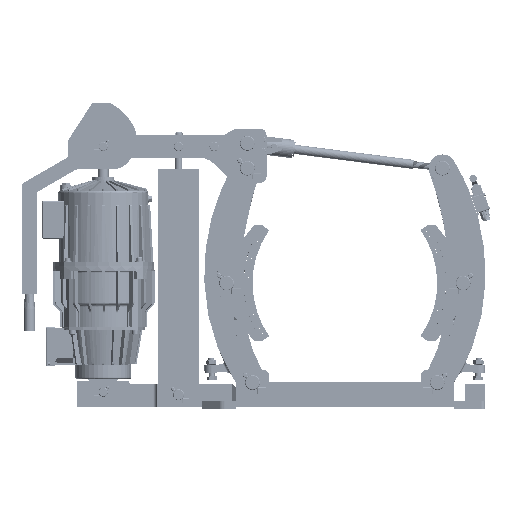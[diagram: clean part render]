
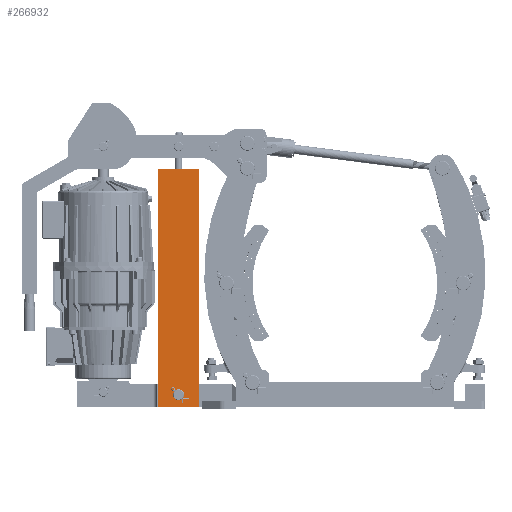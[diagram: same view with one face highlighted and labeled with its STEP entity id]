
A CAD part, left-side view. The second image highlights one B-rep face of the part: STEP entity #266932.
In plain terms, the highlighted planar face has unit normal (-1, 0, 0).
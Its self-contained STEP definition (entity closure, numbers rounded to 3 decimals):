
#266763=DIRECTION('',(0.,0.,-1.));
#266764=VECTOR('',#266763,642.);
#266765=CARTESIAN_POINT('',(-140.,774.997,648.));
#266766=LINE('',#266765,#266764);
#266770=DIRECTION('',(0.,1.,0.));
#266771=VECTOR('',#266770,110.);
#266772=CARTESIAN_POINT('',(-140.,774.997,6.));
#266773=LINE('',#266772,#266771);
#266777=DIRECTION('',(0.,0.,1.));
#266778=VECTOR('',#266777,642.);
#266779=CARTESIAN_POINT('',(-140.,884.997,6.));
#266780=LINE('',#266779,#266778);
#266784=DIRECTION('',(0.,-1.,0.));
#266785=VECTOR('',#266784,110.);
#266786=CARTESIAN_POINT('',(-140.,884.997,648.));
#266787=LINE('',#266786,#266785);
#266791=CARTESIAN_POINT('',(-140.,830.,23.));
#266792=CARTESIAN_POINT('',(-140.,829.586,23.));
#266793=CARTESIAN_POINT('',(-140.,828.76,23.034));
#266794=CARTESIAN_POINT('',(-140.,827.527,23.188));
#266795=CARTESIAN_POINT('',(-140.,826.312,23.443));
#266796=CARTESIAN_POINT('',(-140.,825.124,23.797));
#266797=CARTESIAN_POINT('',(-140.,823.965,24.249));
#266798=CARTESIAN_POINT('',(-140.,822.849,24.795));
#266799=CARTESIAN_POINT('',(-140.,821.782,25.431));
#266800=CARTESIAN_POINT('',(-140.,820.772,26.153));
#266801=CARTESIAN_POINT('',(-140.,819.826,26.955));
#266802=CARTESIAN_POINT('',(-140.,818.949,27.832));
#266803=CARTESIAN_POINT('',(-140.,818.147,28.779));
#266804=CARTESIAN_POINT('',(-140.,817.427,29.789));
#266805=CARTESIAN_POINT('',(-140.,816.792,30.854));
#266806=CARTESIAN_POINT('',(-140.,816.247,31.969));
#266807=CARTESIAN_POINT('',(-140.,815.796,33.126));
#266808=CARTESIAN_POINT('',(-140.,815.443,34.313));
#266809=CARTESIAN_POINT('',(-140.,815.188,35.527));
#266810=CARTESIAN_POINT('',(-140.,815.034,36.759));
#266811=CARTESIAN_POINT('',(-140.,815.,37.585));
#266812=CARTESIAN_POINT('',(-140.,815.,38.));
#266817=CARTESIAN_POINT('',(-140.,815.,38.));
#266818=CARTESIAN_POINT('',(-140.,815.,38.414));
#266819=CARTESIAN_POINT('',(-140.,815.034,39.24));
#266820=CARTESIAN_POINT('',(-140.,815.188,40.473));
#266821=CARTESIAN_POINT('',(-140.,815.443,41.688));
#266822=CARTESIAN_POINT('',(-140.,815.797,42.876));
#266823=CARTESIAN_POINT('',(-140.,816.249,44.035));
#266824=CARTESIAN_POINT('',(-140.,816.795,45.151));
#266825=CARTESIAN_POINT('',(-140.,817.431,46.218));
#266826=CARTESIAN_POINT('',(-140.,818.153,47.228));
#266827=CARTESIAN_POINT('',(-140.,818.955,48.174));
#266828=CARTESIAN_POINT('',(-140.,819.832,49.051));
#266829=CARTESIAN_POINT('',(-140.,820.779,49.853));
#266830=CARTESIAN_POINT('',(-140.,821.789,50.573));
#266831=CARTESIAN_POINT('',(-140.,822.854,51.208));
#266832=CARTESIAN_POINT('',(-140.,823.969,51.753));
#266833=CARTESIAN_POINT('',(-140.,825.126,52.204));
#266834=CARTESIAN_POINT('',(-140.,826.313,52.557));
#266835=CARTESIAN_POINT('',(-140.,827.527,52.812));
#266836=CARTESIAN_POINT('',(-140.,828.759,52.966));
#266837=CARTESIAN_POINT('',(-140.,829.585,53.));
#266838=CARTESIAN_POINT('',(-140.,830.,53.));
#266843=CARTESIAN_POINT('',(-140.,830.,53.));
#266844=CARTESIAN_POINT('',(-140.,830.414,53.));
#266845=CARTESIAN_POINT('',(-140.,831.24,52.966));
#266846=CARTESIAN_POINT('',(-140.,832.473,52.812));
#266847=CARTESIAN_POINT('',(-140.,833.688,52.557));
#266848=CARTESIAN_POINT('',(-140.,834.876,52.203));
#266849=CARTESIAN_POINT('',(-140.,836.035,51.751));
#266850=CARTESIAN_POINT('',(-140.,837.151,51.205));
#266851=CARTESIAN_POINT('',(-140.,838.218,50.569));
#266852=CARTESIAN_POINT('',(-140.,839.228,49.847));
#266853=CARTESIAN_POINT('',(-140.,840.174,49.045));
#266854=CARTESIAN_POINT('',(-140.,841.051,48.168));
#266855=CARTESIAN_POINT('',(-140.,841.853,47.221));
#266856=CARTESIAN_POINT('',(-140.,842.573,46.211));
#266857=CARTESIAN_POINT('',(-140.,843.208,45.146));
#266858=CARTESIAN_POINT('',(-140.,843.753,44.031));
#266859=CARTESIAN_POINT('',(-140.,844.204,42.874));
#266860=CARTESIAN_POINT('',(-140.,844.557,41.687));
#266861=CARTESIAN_POINT('',(-140.,844.812,40.473));
#266862=CARTESIAN_POINT('',(-140.,844.966,39.241));
#266863=CARTESIAN_POINT('',(-140.,845.,38.415));
#266864=CARTESIAN_POINT('',(-140.,845.,38.));
#266869=CARTESIAN_POINT('',(-140.,845.,38.));
#266870=CARTESIAN_POINT('',(-140.,845.,37.586));
#266871=CARTESIAN_POINT('',(-140.,844.966,36.76));
#266872=CARTESIAN_POINT('',(-140.,844.812,35.527));
#266873=CARTESIAN_POINT('',(-140.,844.557,34.312));
#266874=CARTESIAN_POINT('',(-140.,844.203,33.124));
#266875=CARTESIAN_POINT('',(-140.,843.751,31.965));
#266876=CARTESIAN_POINT('',(-140.,843.205,30.849));
#266877=CARTESIAN_POINT('',(-140.,842.569,29.782));
#266878=CARTESIAN_POINT('',(-140.,841.847,28.772));
#266879=CARTESIAN_POINT('',(-140.,841.045,27.826));
#266880=CARTESIAN_POINT('',(-140.,840.168,26.949));
#266881=CARTESIAN_POINT('',(-140.,839.221,26.147));
#266882=CARTESIAN_POINT('',(-140.,838.211,25.427));
#266883=CARTESIAN_POINT('',(-140.,837.146,24.792));
#266884=CARTESIAN_POINT('',(-140.,836.031,24.247));
#266885=CARTESIAN_POINT('',(-140.,834.874,23.796));
#266886=CARTESIAN_POINT('',(-140.,833.687,23.443));
#266887=CARTESIAN_POINT('',(-140.,832.473,23.188));
#266888=CARTESIAN_POINT('',(-140.,831.241,23.034));
#266889=CARTESIAN_POINT('',(-140.,830.415,23.));
#266890=CARTESIAN_POINT('',(-140.,830.,23.));
#266895=CARTESIAN_POINT('',(-140.,774.997,648.));
#266896=CARTESIAN_POINT('',(-140.,774.997,6.));
#266897=VERTEX_POINT('',#266895);
#266898=VERTEX_POINT('',#266896);
#266899=CARTESIAN_POINT('',(-140.,884.997,6.));
#266900=VERTEX_POINT('',#266899);
#266901=CARTESIAN_POINT('',(-140.,884.997,648.));
#266902=VERTEX_POINT('',#266901);
#266903=VERTEX_POINT('',#266791);
#266904=VERTEX_POINT('',#266812);
#266905=VERTEX_POINT('',#266838);
#266906=VERTEX_POINT('',#266864);
#266907=CARTESIAN_POINT('',(-140.,829.997,327.));
#266908=DIRECTION('',(1.,0.,0.));
#266909=DIRECTION('',(0.,0.,1.));
#266910=AXIS2_PLACEMENT_3D('',#266907,#266908,#266909);
#266911=PLANE('',#266910);
#266913=ORIENTED_EDGE('',*,*,#266912,.T.);
#266915=ORIENTED_EDGE('',*,*,#266914,.T.);
#266917=ORIENTED_EDGE('',*,*,#266916,.T.);
#266919=ORIENTED_EDGE('',*,*,#266918,.T.);
#266920=EDGE_LOOP('',(#266913,#266915,#266917,#266919));
#266921=FACE_OUTER_BOUND('',#266920,.F.);
#266923=ORIENTED_EDGE('',*,*,#266922,.T.);
#266925=ORIENTED_EDGE('',*,*,#266924,.T.);
#266927=ORIENTED_EDGE('',*,*,#266926,.T.);
#266929=ORIENTED_EDGE('',*,*,#266928,.T.);
#266930=EDGE_LOOP('',(#266923,#266925,#266927,#266929));
#266931=FACE_BOUND('',#266930,.F.);
#266932=ADVANCED_FACE('',(#266921,#266931),#266911,.F.);
#266813=B_SPLINE_CURVE_WITH_KNOTS('',3,(#266791,#266792,#266793,#266794,#266795,
#266796,#266797,#266798,#266799,#266800,#266801,#266802,#266803,#266804,#266805,
#266806,#266807,#266808,#266809,#266810,#266811,#266812),.UNSPECIFIED.,.F.,.F.,(
4,1,1,1,1,1,1,1,1,1,1,1,1,1,1,1,1,1,1,4),(0.,0.053,
0.105,0.158,0.211,0.263,
0.316,0.368,0.421,0.474,
0.526,0.579,0.632,0.684,
0.737,0.789,0.842,0.895,
0.947,1.),.UNSPECIFIED.);
#266839=B_SPLINE_CURVE_WITH_KNOTS('',3,(#266817,#266818,#266819,#266820,#266821,
#266822,#266823,#266824,#266825,#266826,#266827,#266828,#266829,#266830,#266831,
#266832,#266833,#266834,#266835,#266836,#266837,#266838),.UNSPECIFIED.,.F.,.F.,(
4,1,1,1,1,1,1,1,1,1,1,1,1,1,1,1,1,1,1,4),(0.,0.053,
0.105,0.158,0.211,0.263,
0.316,0.368,0.421,0.474,
0.526,0.579,0.632,0.684,
0.737,0.789,0.842,0.895,
0.947,1.),.UNSPECIFIED.);
#266865=B_SPLINE_CURVE_WITH_KNOTS('',3,(#266843,#266844,#266845,#266846,#266847,
#266848,#266849,#266850,#266851,#266852,#266853,#266854,#266855,#266856,#266857,
#266858,#266859,#266860,#266861,#266862,#266863,#266864),.UNSPECIFIED.,.F.,.F.,(
4,1,1,1,1,1,1,1,1,1,1,1,1,1,1,1,1,1,1,4),(0.,0.053,
0.105,0.158,0.211,0.263,
0.316,0.368,0.421,0.474,
0.526,0.579,0.632,0.684,
0.737,0.789,0.842,0.895,
0.947,1.),.UNSPECIFIED.);
#266891=B_SPLINE_CURVE_WITH_KNOTS('',3,(#266869,#266870,#266871,#266872,#266873,
#266874,#266875,#266876,#266877,#266878,#266879,#266880,#266881,#266882,#266883,
#266884,#266885,#266886,#266887,#266888,#266889,#266890),.UNSPECIFIED.,.F.,.F.,(
4,1,1,1,1,1,1,1,1,1,1,1,1,1,1,1,1,1,1,4),(0.,0.053,
0.105,0.158,0.211,0.263,
0.316,0.368,0.421,0.474,
0.526,0.579,0.632,0.684,
0.737,0.789,0.842,0.895,
0.947,1.),.UNSPECIFIED.);
#266912=EDGE_CURVE('',#266897,#266898,#266766,.T.);
#266914=EDGE_CURVE('',#266898,#266900,#266773,.T.);
#266916=EDGE_CURVE('',#266900,#266902,#266780,.T.);
#266918=EDGE_CURVE('',#266902,#266897,#266787,.T.);
#266922=EDGE_CURVE('',#266903,#266904,#266813,.T.);
#266924=EDGE_CURVE('',#266904,#266905,#266839,.T.);
#266926=EDGE_CURVE('',#266905,#266906,#266865,.T.);
#266928=EDGE_CURVE('',#266906,#266903,#266891,.T.);
